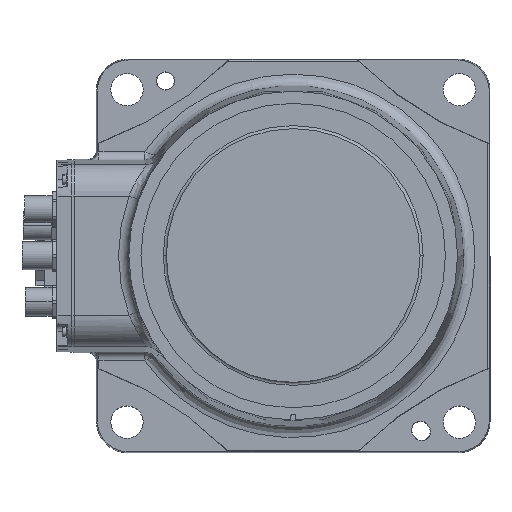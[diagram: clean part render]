
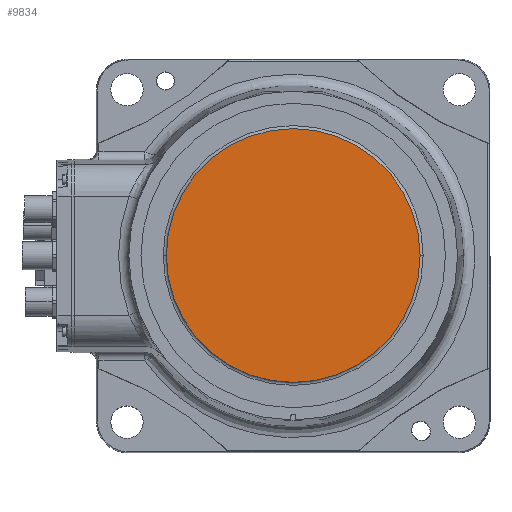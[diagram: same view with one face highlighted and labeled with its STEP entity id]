
A CAD part, top view. The second image highlights one B-rep face of the part: STEP entity #9834.
In plain terms, the highlighted planar face has unit normal (0, 0, 1).
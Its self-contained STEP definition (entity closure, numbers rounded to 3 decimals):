
#2008 = EDGE_CURVE ( 'NONE', #13260, #21772, #3864, .T. ) ;
#3864 = CIRCLE ( 'NONE', #20335, 72.524 ) ;
#4537 = CARTESIAN_POINT ( 'NONE',  ( 0., 0., 158. ) ) ;
#7885 = FACE_OUTER_BOUND ( 'NONE', #14726, .T. ) ;
#8201 = CARTESIAN_POINT ( 'NONE',  ( 0., -72.524, 158. ) ) ;
#9834 = ADVANCED_FACE ( 'NONE', ( #7885 ), #12414, .T. ) ;
#11288 = AXIS2_PLACEMENT_3D ( 'NONE', #30206, #20502, #30046 ) ;
#12022 = ORIENTED_EDGE ( 'NONE', *, *, #22296, .T. ) ;
#12414 = PLANE ( 'NONE',  #24207 ) ;
#13260 = VERTEX_POINT ( 'NONE', #21227 ) ;
#14225 = DIRECTION ( 'NONE',  ( 1., 0., 0. ) ) ;
#14726 = EDGE_LOOP ( 'NONE', ( #12022, #19594 ) ) ;
#16313 = CIRCLE ( 'NONE', #11288, 72.524 ) ;
#16889 = DIRECTION ( 'NONE',  ( 0., 0., 1. ) ) ;
#19594 = ORIENTED_EDGE ( 'NONE', *, *, #2008, .T. ) ;
#19611 = DIRECTION ( 'NONE',  ( 1., 0., 0. ) ) ;
#20335 = AXIS2_PLACEMENT_3D ( 'NONE', #4537, #16889, #14225 ) ;
#20502 = DIRECTION ( 'NONE',  ( 0., 0., 1. ) ) ;
#21227 = CARTESIAN_POINT ( 'NONE',  ( -72.524, 0., 158. ) ) ;
#21772 = VERTEX_POINT ( 'NONE', #30749 ) ;
#22296 = EDGE_CURVE ( 'NONE', #21772, #13260, #16313, .T. ) ;
#24207 = AXIS2_PLACEMENT_3D ( 'NONE', #8201, #24625, #19611 ) ;
#24625 = DIRECTION ( 'NONE',  ( 0., 0., 1. ) ) ;
#30046 = DIRECTION ( 'NONE',  ( 1., 0., 0. ) ) ;
#30206 = CARTESIAN_POINT ( 'NONE',  ( 0., 0., 158. ) ) ;
#30749 = CARTESIAN_POINT ( 'NONE',  ( 72.524, 0., 158. ) ) ;
